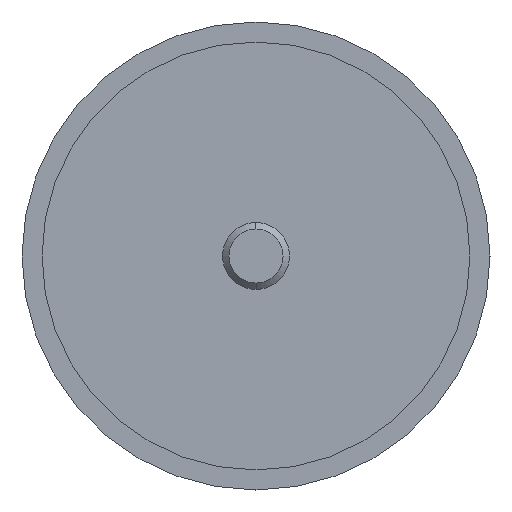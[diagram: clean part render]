
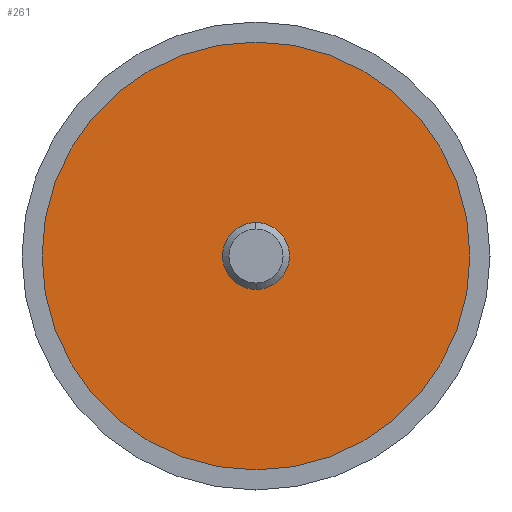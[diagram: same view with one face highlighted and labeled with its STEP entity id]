
A CAD part, left-side view. The second image highlights one B-rep face of the part: STEP entity #261.
In plain terms, the highlighted planar face has unit normal (-1, 0, 0).
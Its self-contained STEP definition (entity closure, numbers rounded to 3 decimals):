
#14 = DIRECTION ( 'NONE',  ( -1., 0., 0. ) ) ;
#21 = DIRECTION ( 'NONE',  ( -1., 0., 0. ) ) ;
#28 = EDGE_CURVE ( 'NONE', #570, #62, #472, .T. ) ;
#62 = VERTEX_POINT ( 'NONE', #295 ) ;
#110 = AXIS2_PLACEMENT_3D ( 'NONE', #652, #266, #376 ) ;
#121 = DIRECTION ( 'NONE',  ( 0., 0., -1. ) ) ;
#123 = EDGE_CURVE ( 'NONE', #668, #316, #225, .T. ) ;
#138 = AXIS2_PLACEMENT_3D ( 'NONE', #290, #621, #500 ) ;
#164 = DIRECTION ( 'NONE',  ( -1., 0., 0. ) ) ;
#165 = DIRECTION ( 'NONE',  ( 0., 0., 1. ) ) ;
#218 = PLANE ( 'NONE',  #110 ) ;
#225 = CIRCLE ( 'NONE', #138, 5. ) ;
#261 = ADVANCED_FACE ( 'NONE', ( #624, #467 ), #218, .F. ) ;
#266 = DIRECTION ( 'NONE',  ( 1., 0., 0. ) ) ;
#283 = EDGE_CURVE ( 'NONE', #316, #668, #599, .T. ) ;
#290 = CARTESIAN_POINT ( 'NONE',  ( -14.99, 0., 0. ) ) ;
#295 = CARTESIAN_POINT ( 'NONE',  ( -14.99, 0., -32. ) ) ;
#316 = VERTEX_POINT ( 'NONE', #485 ) ;
#336 = AXIS2_PLACEMENT_3D ( 'NONE', #444, #164, #374 ) ;
#374 = DIRECTION ( 'NONE',  ( 0., 0., 1. ) ) ;
#375 = CARTESIAN_POINT ( 'NONE',  ( -14.99, 0., 32. ) ) ;
#376 = DIRECTION ( 'NONE',  ( 0., 0., -1. ) ) ;
#412 = ORIENTED_EDGE ( 'NONE', *, *, #566, .T. ) ;
#444 = CARTESIAN_POINT ( 'NONE',  ( -14.99, 0., 0. ) ) ;
#467 = FACE_BOUND ( 'NONE', #521, .T. ) ;
#472 = CIRCLE ( 'NONE', #336, 32. ) ;
#481 = CARTESIAN_POINT ( 'NONE',  ( -14.99, 0., 0. ) ) ;
#485 = CARTESIAN_POINT ( 'NONE',  ( -14.99, 0., 5. ) ) ;
#497 = ORIENTED_EDGE ( 'NONE', *, *, #28, .T. ) ;
#500 = DIRECTION ( 'NONE',  ( 0., 0., -1. ) ) ;
#511 = EDGE_LOOP ( 'NONE', ( #497, #412 ) ) ;
#521 = EDGE_LOOP ( 'NONE', ( #666, #602 ) ) ;
#545 = AXIS2_PLACEMENT_3D ( 'NONE', #593, #21, #121 ) ;
#555 = AXIS2_PLACEMENT_3D ( 'NONE', #481, #14, #165 ) ;
#566 = EDGE_CURVE ( 'NONE', #62, #570, #607, .T. ) ;
#570 = VERTEX_POINT ( 'NONE', #375 ) ;
#593 = CARTESIAN_POINT ( 'NONE',  ( -14.99, 0., 0. ) ) ;
#599 = CIRCLE ( 'NONE', #545, 5. ) ;
#602 = ORIENTED_EDGE ( 'NONE', *, *, #123, .F. ) ;
#607 = CIRCLE ( 'NONE', #555, 32. ) ;
#621 = DIRECTION ( 'NONE',  ( -1., 0., 0. ) ) ;
#624 = FACE_OUTER_BOUND ( 'NONE', #511, .T. ) ;
#652 = CARTESIAN_POINT ( 'NONE',  ( -14.99, 32., 0. ) ) ;
#666 = ORIENTED_EDGE ( 'NONE', *, *, #283, .F. ) ;
#668 = VERTEX_POINT ( 'NONE', #673 ) ;
#673 = CARTESIAN_POINT ( 'NONE',  ( -14.99, 0., -5. ) ) ;
